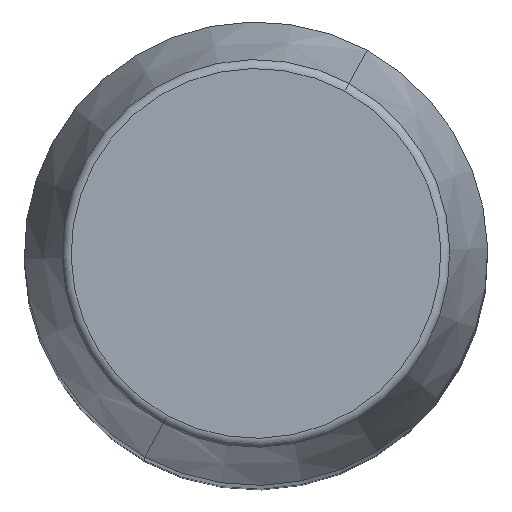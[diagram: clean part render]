
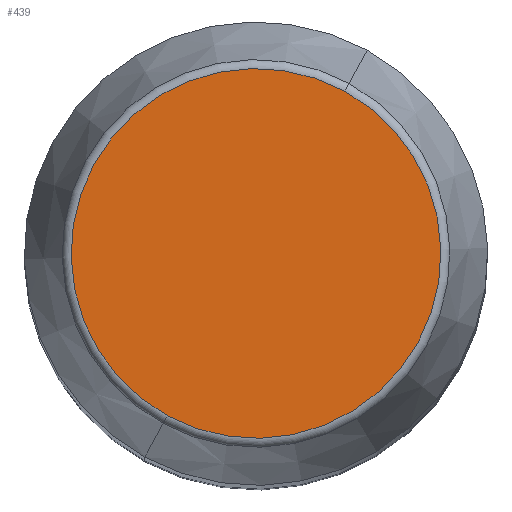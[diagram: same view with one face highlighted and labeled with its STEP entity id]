
A CAD part, top view. The second image highlights one B-rep face of the part: STEP entity #439.
In plain terms, the highlighted planar face has unit normal (0, 0, 1).
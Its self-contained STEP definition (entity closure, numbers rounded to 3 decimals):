
#391=CARTESIAN_POINT('Vertex',(-9.562,-17.504,315.)) ;
#394=CARTESIAN_POINT('Axis2P3D Location',(0.,0.,315.)) ;
#398=CARTESIAN_POINT('Vertex',(9.562,17.504,315.)) ;
#418=CARTESIAN_POINT('Axis2P3D Location',(0.,0.,315.)) ;
#430=CARTESIAN_POINT('Axis2P3D Location',(0.,19.945,315.)) ;
#395=DIRECTION('Axis2P3D Direction',(0.,0.,-1.)) ;
#419=DIRECTION('Axis2P3D Direction',(0.,0.,-1.)) ;
#431=DIRECTION('Axis2P3D Direction',(0.,0.,-1.)) ;
#432=DIRECTION('Axis2P3D XDirection',(1.,0.,0.)) ;
#396=AXIS2_PLACEMENT_3D('Circle Axis2P3D',#394,#395,$) ;
#420=AXIS2_PLACEMENT_3D('Circle Axis2P3D',#418,#419,$) ;
#433=AXIS2_PLACEMENT_3D('Plane Axis2P3D',#430,#431,#432) ;
#436=ORIENTED_EDGE('',*,*,#422,.F.) ;
#437=ORIENTED_EDGE('',*,*,#400,.F.) ;
#439=ADVANCED_FACE('PartBody',(#438),#434,.F.) ;
#397=CIRCLE('generated circle',#396,19.945) ;
#421=CIRCLE('generated circle',#420,19.945) ;
#400=EDGE_CURVE('',#392,#399,#397,.T.) ;
#422=EDGE_CURVE('',#399,#392,#421,.T.) ;
#435=EDGE_LOOP('',(#436,#437)) ;
#438=FACE_OUTER_BOUND('',#435,.T.) ;
#434=PLANE('Plane',#433) ;
#392=VERTEX_POINT('',#391) ;
#399=VERTEX_POINT('',#398) ;
